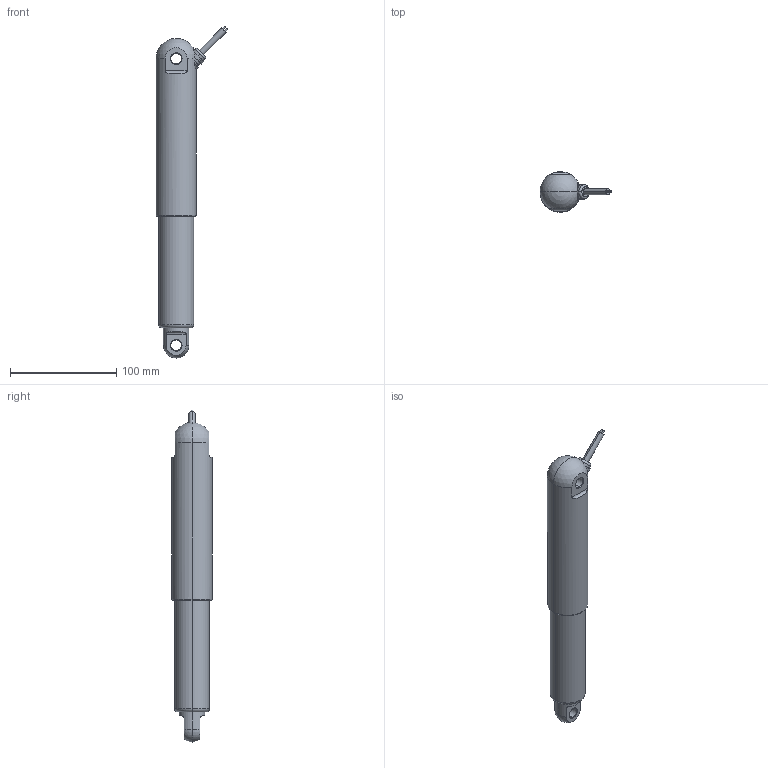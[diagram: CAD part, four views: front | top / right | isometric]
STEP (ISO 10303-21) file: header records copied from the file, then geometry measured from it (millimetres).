
FILE_DESCRIPTION((''),'2;1');
FILE_NAME('ST38-50MM-220','2016-12-15T',('Aklek'),(''),'PRO/ENGINEER BY PARAMETRIC TECHNOLOGY CORPORATION, 2010100','PRO/ENGINEER BY PARAMETRIC TECHNOLOGY CORPORATION, 2010100','');
FILE_SCHEMA(('CONFIG_CONTROL_DESIGN'));
Length unit declared in the file: millimetre
Products named in the file (1): ST38-50MM-220
Bounding box: 67.76 x 38 x 312.76 mm (x, y, z)
Volume: 276299.4 mm3; surface area: 36708.8 mm2
Topology: 1 solids, 2 shells, 92 faces, 223 edges, 141 vertices
Faces by surface type: cylinder 41, plane 33, cone 8, torus 6, sphere 4
Entity records: 2824 total; most frequent: CARTESIAN_POINT 568, DIRECTION 498, ORIENTED_EDGE 438, EDGE_CURVE 219, AXIS2_PLACEMENT_3D 201, VERTEX_POINT 141, CIRCLE 109, EDGE_LOOP 106
